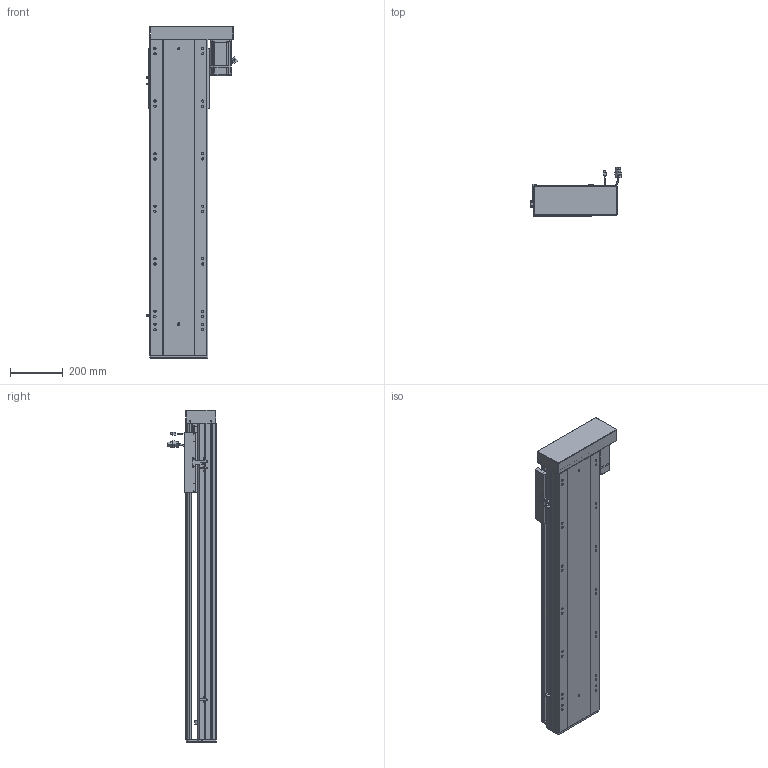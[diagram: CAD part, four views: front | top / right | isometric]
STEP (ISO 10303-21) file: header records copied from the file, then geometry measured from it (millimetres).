
FILE_DESCRIPTION (( 'STEP AP203' ), '1' );
FILE_NAME ('RY220-L2525-800-RK-邧嶺.SLDASM_850.step', '2022-08-06T08:52:36', ( '' ), ( '' ), 'SwSTEP 2.0', 'SolidWorks 2016', '' );
FILE_SCHEMA (( 'CONFIG_CONTROL_DESIGN' ));
Length unit declared in the file: millimetre
Products named in the file (12): 覜茼ん672; RY220綴裔啣; RY220蛌殏菁釱-800-邧嶺_850; RY220酘衵殏萇儂欶; 滅袉蝶18-10; RY220左右折电机安装板; 滅袉蝶18-15; RY220半封闭25-32螺母铝滑块; RY220-800-蛌殏奻裔啣_850; 怢湛750W_ECMA-CX0807ES; RY220-俋离672覜茼んえ; RY220-L2525-800-RK-邧嶺.SLDASM_850
Assembly tree (15 placements, depth 2):
  RY220-L2525-800-RK-邧嶺.SLDASM_850
    RY220蛌殏菁釱-800-邧嶺_850
    RY220-800-蛌殏奻裔啣_850
    怢湛750W_ECMA-CX0807ES
    滅袉蝶18-10  x2
    RY220-俋离672覜茼んえ
    覜茼ん672  x3
    RY220綴裔啣
    RY220半封闭25-32螺母铝滑块
    滅袉蝶18-15  x2
    RY220左右折电机安装板
    RY220酘衵殏萇儂欶
Bounding box: 347.44 x 187.27 x 1264 mm (x, y, z)
Volume: 10763148.1 mm3; surface area: 3125513.1 mm2
Topology: 16 solids, 16 shells, 2151 faces, 5936 edges, 3759 vertices
Faces by surface type: cylinder 963, plane 904, cone 214, bspline 44, sphere 16, torus 10
Entity records: 71011 total; most frequent: CARTESIAN_POINT 20623, ORIENTED_EDGE 10472, DIRECTION 9816, EDGE_CURVE 5236, AXIS2_PLACEMENT_3D 3437, VERTEX_POINT 3415, VECTOR 2942, LINE 2942
